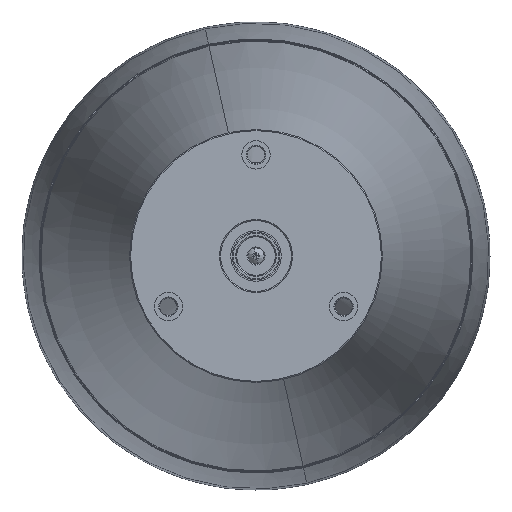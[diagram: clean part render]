
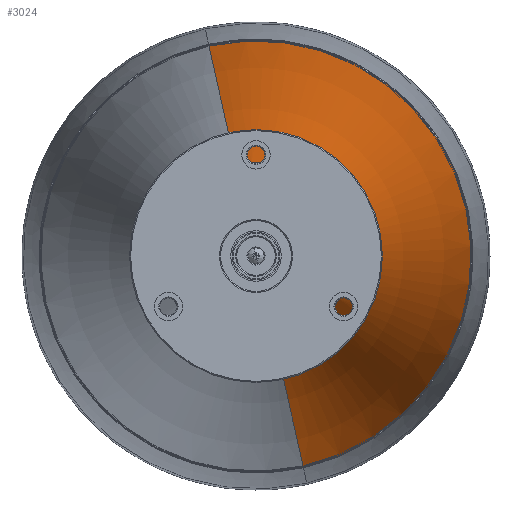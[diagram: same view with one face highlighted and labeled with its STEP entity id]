
A CAD part, front view. The second image highlights one B-rep face of the part: STEP entity #3024.
In plain terms, the highlighted toroidal (fillet/blend) face has major radius 2425.65 mm and minor radius 2541 mm.
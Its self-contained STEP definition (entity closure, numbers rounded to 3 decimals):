
#2668 = CARTESIAN_POINT ( 'NONE',  ( 529.891, 1027.507, -2367.069 ) ) ;
#3024 = ADVANCED_FACE ( 'NONE', ( #54901 ), #51434, .T. ) ;
#3784 = CARTESIAN_POINT ( 'NONE',  ( 0., 438.842, 0. ) ) ;
#3992 = AXIS2_PLACEMENT_3D ( 'NONE', #3784, #39529, #35960 ) ;
#4091 = EDGE_CURVE ( 'NONE', #34815, #5623, #34547, .T. ) ;
#5623 = VERTEX_POINT ( 'NONE', #35370 ) ;
#8006 = ORIENTED_EDGE ( 'NONE', *, *, #46218, .F. ) ;
#10022 = VERTEX_POINT ( 'NONE', #33576 ) ;
#12658 = DIRECTION ( 'NONE',  ( 0.218, 0., -0.976 ) ) ;
#13579 = ORIENTED_EDGE ( 'NONE', *, *, #4091, .T. ) ;
#16253 = DIRECTION ( 'NONE',  ( 0.218, 0., -0.976 ) ) ;
#17935 = CARTESIAN_POINT ( 'NONE',  ( 0., 818.577, 0. ) ) ;
#18157 = ORIENTED_EDGE ( 'NONE', *, *, #46204, .T. ) ;
#19221 = DIRECTION ( 'NONE',  ( -0.218, 0., 0.976 ) ) ;
#22798 = EDGE_CURVE ( 'NONE', #53138, #10022, #47935, .T. ) ;
#23351 = CARTESIAN_POINT ( 'NONE',  ( -529.891, 1027.507, 2367.069 ) ) ;
#24077 = DIRECTION ( 'NONE',  ( 0.218, 0., -0.976 ) ) ;
#25977 = AXIS2_PLACEMENT_3D ( 'NONE', #46533, #28816, #24077 ) ;
#28816 = DIRECTION ( 'NONE',  ( 0., -1., 0. ) ) ;
#28846 = CARTESIAN_POINT ( 'NONE',  ( -23.318, 818.577, 104.163 ) ) ;
#32816 = DIRECTION ( 'NONE',  ( -0.976, 0., -0.218 ) ) ;
#33576 = CARTESIAN_POINT ( 'NONE',  ( 10.096, 438.842, -45.102 ) ) ;
#34161 = AXIS2_PLACEMENT_3D ( 'NONE', #17935, #43932, #12658 ) ;
#34547 = CIRCLE ( 'NONE', #43073, 2541. ) ;
#34815 = VERTEX_POINT ( 'NONE', #28846 ) ;
#35370 = CARTESIAN_POINT ( 'NONE',  ( -10.096, 438.842, 45.102 ) ) ;
#35960 = DIRECTION ( 'NONE',  ( 0.218, 0., -0.976 ) ) ;
#39529 = DIRECTION ( 'NONE',  ( 0., -1., 0. ) ) ;
#39638 = EDGE_LOOP ( 'NONE', ( #18157, #13579, #8006, #41091 ) ) ;
#39884 = CIRCLE ( 'NONE', #3992, 46.218 ) ;
#41091 = ORIENTED_EDGE ( 'NONE', *, *, #22798, .F. ) ;
#43073 = AXIS2_PLACEMENT_3D ( 'NONE', #2668, #47545, #16253 ) ;
#43932 = DIRECTION ( 'NONE',  ( 0., -1., 0. ) ) ;
#46204 = EDGE_CURVE ( 'NONE', #53138, #34815, #53979, .T. ) ;
#46218 = EDGE_CURVE ( 'NONE', #10022, #5623, #39884, .T. ) ;
#46533 = CARTESIAN_POINT ( 'NONE',  ( 0., 1027.507, 0. ) ) ;
#46976 = CARTESIAN_POINT ( 'NONE',  ( 23.318, 818.577, -104.163 ) ) ;
#47545 = DIRECTION ( 'NONE',  ( 0.976, 0., 0.218 ) ) ;
#47935 = CIRCLE ( 'NONE', #53608, 2541. ) ;
#51434 = TOROIDAL_SURFACE ( 'NONE', #25977, -2425.654, 2541. ) ;
#53138 = VERTEX_POINT ( 'NONE', #46976 ) ;
#53608 = AXIS2_PLACEMENT_3D ( 'NONE', #23351, #32816, #19221 ) ;
#53979 = CIRCLE ( 'NONE', #34161, 106.741 ) ;
#54901 = FACE_OUTER_BOUND ( 'NONE', #39638, .T. ) ;
